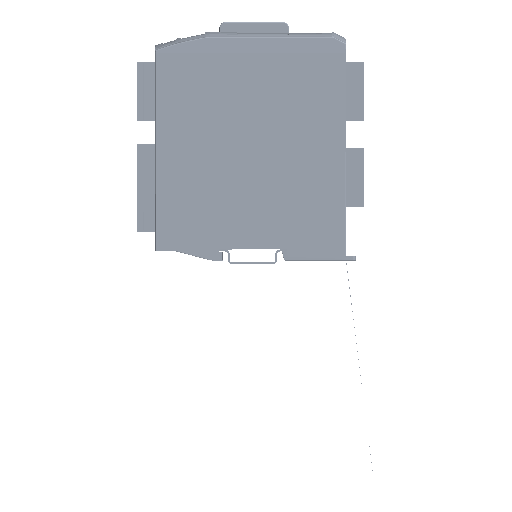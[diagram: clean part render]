
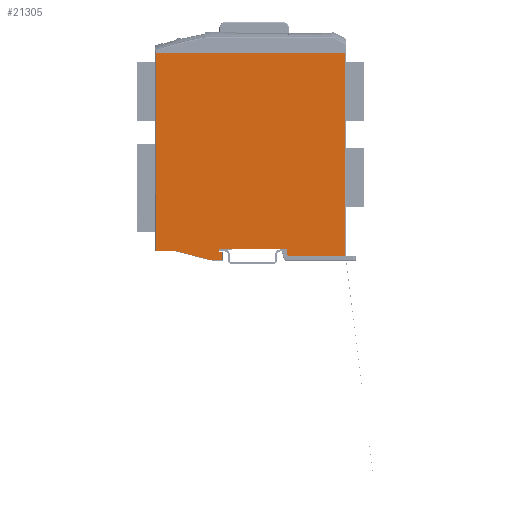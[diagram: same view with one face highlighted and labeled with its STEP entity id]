
A CAD part, left-side view. The second image highlights one B-rep face of the part: STEP entity #21305.
In plain terms, the highlighted planar face has unit normal (-1, 0, 0.009) as drawn and (0, 0, -1) by its records, which use the part's own axes.
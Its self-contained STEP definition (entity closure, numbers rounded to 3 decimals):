
#305 = CARTESIAN_POINT ( 'NONE',  ( 122.461, 11.336, 40.684 ) ) ;
#690 = LINE ( 'NONE', #6224, #77109 ) ;
#920 = CARTESIAN_POINT ( 'NONE',  ( 123.412, 41.318, 40.684 ) ) ;
#978 = CARTESIAN_POINT ( 'NONE',  ( 127.014, 81.576, 40.684 ) ) ;
#1815 = VERTEX_POINT ( 'NONE', #94981 ) ;
#2311 = ORIENTED_EDGE ( 'NONE', *, *, #46388, .T. ) ;
#3000 = EDGE_CURVE ( 'NONE', #48896, #41365, #67521, .T. ) ;
#3489 = EDGE_CURVE ( 'NONE', #1815, #60812, #81280, .T. ) ;
#3964 = CARTESIAN_POINT ( 'NONE',  ( 122.461, 98.859, 40.684 ) ) ;
#5640 = CARTESIAN_POINT ( 'NONE',  ( 122.461, 109.056, 40.684 ) ) ;
#6224 = CARTESIAN_POINT ( 'NONE',  ( 122.461, 98.859, 40.684 ) ) ;
#6597 = VECTOR ( 'NONE', #32495, 1000. ) ;
#7000 = CARTESIAN_POINT ( 'NONE',  ( 125.3, 40.812, 40.684 ) ) ;
#7757 = DIRECTION ( 'NONE',  ( 0., -1., 0. ) ) ;
#8022 = ORIENTED_EDGE ( 'NONE', *, *, #57854, .T. ) ;
#8477 = VECTOR ( 'NONE', #65117, 1000. ) ;
#8576 = DIRECTION ( 'NONE',  ( 0., 1., 0. ) ) ;
#9017 = EDGE_CURVE ( 'NONE', #91561, #48896, #690, .T. ) ;
#9718 = CARTESIAN_POINT ( 'NONE',  ( 125.177, 11.335, 40.684 ) ) ;
#10532 = ORIENTED_EDGE ( 'NONE', *, *, #34546, .T. ) ;
#10749 = CARTESIAN_POINT ( 'NONE',  ( 123.21, 74.697, 40.684 ) ) ;
#11099 = AXIS2_PLACEMENT_3D ( 'NONE', #53563, #53886, #8576 ) ;
#12582 = VECTOR ( 'NONE', #20030, 1000. ) ;
#12611 = ORIENTED_EDGE ( 'NONE', *, *, #3489, .F. ) ;
#13293 = DIRECTION ( 'NONE',  ( -1., 0.012, 0. ) ) ;
#13371 = CARTESIAN_POINT ( 'NONE',  ( 20.067, 109.056, 40.684 ) ) ;
#13641 = CARTESIAN_POINT ( 'NONE',  ( 125.177, 11.335, 40.684 ) ) ;
#14225 = VECTOR ( 'NONE', #57100, 1000. ) ;
#14480 = EDGE_CURVE ( 'NONE', #46622, #44065, #50816, .T. ) ;
#16236 = CARTESIAN_POINT ( 'NONE',  ( 122.461, 109.056, 40.684 ) ) ;
#17138 = DIRECTION ( 'NONE',  ( 0., 1., 0. ) ) ;
#20030 = DIRECTION ( 'NONE',  ( 0.966, -0.259, 0. ) ) ;
#21058 = CARTESIAN_POINT ( 'NONE',  ( 127.014, 74.697, 40.684 ) ) ;
#21305 = ADVANCED_FACE ( 'NONE', ( #31200 ), #30576, .T. ) ;
#22056 = LINE ( 'NONE', #42081, #85702 ) ;
#25032 = CARTESIAN_POINT ( 'NONE',  ( 123.21, 74.697, 40.684 ) ) ;
#26315 = LINE ( 'NONE', #55167, #6597 ) ;
#26900 = EDGE_CURVE ( 'NONE', #41365, #46049, #26315, .T. ) ;
#27137 = ORIENTED_EDGE ( 'NONE', *, *, #66870, .T. ) ;
#27589 = VERTEX_POINT ( 'NONE', #9718 ) ;
#30576 = PLANE ( 'NONE',  #11099 ) ;
#31200 = FACE_OUTER_BOUND ( 'NONE', #67892, .T. ) ;
#32495 = DIRECTION ( 'NONE',  ( -1., 0., 0. ) ) ;
#33671 = ORIENTED_EDGE ( 'NONE', *, *, #14480, .T. ) ;
#33966 = VECTOR ( 'NONE', #95722, 1000. ) ;
#34546 = EDGE_CURVE ( 'NONE', #1815, #46622, #41409, .T. ) ;
#34750 = VERTEX_POINT ( 'NONE', #59453 ) ;
#35093 = CARTESIAN_POINT ( 'NONE',  ( 121.563, 79.97, 40.684 ) ) ;
#35899 = ORIENTED_EDGE ( 'NONE', *, *, #3000, .T. ) ;
#38021 = ORIENTED_EDGE ( 'NONE', *, *, #59326, .T. ) ;
#39007 = VECTOR ( 'NONE', #17138, 1000. ) ;
#39148 = CARTESIAN_POINT ( 'NONE',  ( 20.067, 11.336, 40.684 ) ) ;
#40719 = CARTESIAN_POINT ( 'NONE',  ( 20.067, 109.056, 40.684 ) ) ;
#41293 = EDGE_CURVE ( 'NONE', #71959, #91561, #65133, .T. ) ;
#41365 = VERTEX_POINT ( 'NONE', #21058 ) ;
#41409 = LINE ( 'NONE', #86901, #57689 ) ;
#42081 = CARTESIAN_POINT ( 'NONE',  ( 125.3, 11.333, 40.684 ) ) ;
#42199 = VERTEX_POINT ( 'NONE', #82287 ) ;
#43067 = DIRECTION ( 'NONE',  ( 0.255, -0.967, 0. ) ) ;
#43876 = CARTESIAN_POINT ( 'NONE',  ( 127.014, 11.336, 40.684 ) ) ;
#44065 = VERTEX_POINT ( 'NONE', #7000 ) ;
#44344 = CARTESIAN_POINT ( 'NONE',  ( 122.209, 76.722, 40.684 ) ) ;
#45514 = ORIENTED_EDGE ( 'NONE', *, *, #9017, .T. ) ;
#46049 = VERTEX_POINT ( 'NONE', #25032 ) ;
#46388 = EDGE_CURVE ( 'NONE', #34750, #27589, #22056, .T. ) ;
#46622 = VERTEX_POINT ( 'NONE', #920 ) ;
#47090 = LINE ( 'NONE', #39148, #39007 ) ;
#47945 = DIRECTION ( 'NONE',  ( -0.174, 0.985, 0. ) ) ;
#48896 = VERTEX_POINT ( 'NONE', #978 ) ;
#50031 = CARTESIAN_POINT ( 'NONE',  ( 125.3, 11.336, 40.684 ) ) ;
#50816 = LINE ( 'NONE', #55346, #12582 ) ;
#53563 = CARTESIAN_POINT ( 'NONE',  ( -0.544, 11.336, 40.684 ) ) ;
#53886 = DIRECTION ( 'NONE',  ( 0., 0., -1. ) ) ;
#53980 = ORIENTED_EDGE ( 'NONE', *, *, #81890, .F. ) ;
#55167 = CARTESIAN_POINT ( 'NONE',  ( -0.544, 74.697, 40.684 ) ) ;
#55201 = ORIENTED_EDGE ( 'NONE', *, *, #88005, .T. ) ;
#55346 = CARTESIAN_POINT ( 'NONE',  ( 123.412, 41.318, 40.684 ) ) ;
#55817 = LINE ( 'NONE', #50031, #76521 ) ;
#55976 = LINE ( 'NONE', #44344, #33966 ) ;
#57100 = DIRECTION ( 'NONE',  ( 0., 1., 0. ) ) ;
#57450 = CARTESIAN_POINT ( 'NONE',  ( 20.067, 11.336, 40.684 ) ) ;
#57689 = VECTOR ( 'NONE', #79184, 1000. ) ;
#57854 = EDGE_CURVE ( 'NONE', #77642, #71959, #62293, .T. ) ;
#58404 = ORIENTED_EDGE ( 'NONE', *, *, #81783, .T. ) ;
#59326 = EDGE_CURVE ( 'NONE', #70265, #77642, #47090, .T. ) ;
#59453 = CARTESIAN_POINT ( 'NONE',  ( 125.3, 11.333, 40.684 ) ) ;
#60812 = VERTEX_POINT ( 'NONE', #81481 ) ;
#62293 = B_SPLINE_CURVE_WITH_KNOTS ( 'NONE', 3,
 ( #13371, #94195, #87067, #5640 ),
 .UNSPECIFIED., .F., .F.,
 ( 4, 4 ),
 ( 0., 1. ),
 .UNSPECIFIED. ) ;
#63742 = ORIENTED_EDGE ( 'NONE', *, *, #41293, .T. ) ;
#64037 = VECTOR ( 'NONE', #7757, 1000. ) ;
#65117 = DIRECTION ( 'NONE',  ( -1., 0., 0. ) ) ;
#65133 = LINE ( 'NONE', #305, #64037 ) ;
#66870 = EDGE_CURVE ( 'NONE', #46049, #42199, #76167, .T. ) ;
#67521 = LINE ( 'NONE', #43876, #74434 ) ;
#67892 = EDGE_LOOP ( 'NONE', ( #10532, #33671, #55201, #2311, #58404, #38021, #8022, #63742, #45514, #35899, #69767, #27137, #53980, #12611 ) ) ;
#69767 = ORIENTED_EDGE ( 'NONE', *, *, #26900, .T. ) ;
#70265 = VERTEX_POINT ( 'NONE', #57450 ) ;
#71959 = VERTEX_POINT ( 'NONE', #16236 ) ;
#74434 = VECTOR ( 'NONE', #87501, 1000. ) ;
#76167 = LINE ( 'NONE', #10749, #87642 ) ;
#76521 = VECTOR ( 'NONE', #87440, 1000. ) ;
#76781 = LINE ( 'NONE', #13641, #8477 ) ;
#77109 = VECTOR ( 'NONE', #43067, 1000. ) ;
#77642 = VERTEX_POINT ( 'NONE', #40719 ) ;
#79184 = DIRECTION ( 'NONE',  ( 1., 0., 0. ) ) ;
#81280 = LINE ( 'NONE', #35093, #14225 ) ;
#81481 = CARTESIAN_POINT ( 'NONE',  ( 121.563, 76.722, 40.684 ) ) ;
#81783 = EDGE_CURVE ( 'NONE', #27589, #70265, #76781, .T. ) ;
#81890 = EDGE_CURVE ( 'NONE', #60812, #42199, #55976, .T. ) ;
#82287 = CARTESIAN_POINT ( 'NONE',  ( 122.853, 76.722, 40.684 ) ) ;
#85702 = VECTOR ( 'NONE', #13293, 1000. ) ;
#86901 = CARTESIAN_POINT ( 'NONE',  ( -0.544, 41.318, 40.684 ) ) ;
#87067 = CARTESIAN_POINT ( 'NONE',  ( 88.33, 109.056, 40.684 ) ) ;
#87440 = DIRECTION ( 'NONE',  ( 0., -1., 0. ) ) ;
#87501 = DIRECTION ( 'NONE',  ( 0., -1., 0. ) ) ;
#87642 = VECTOR ( 'NONE', #47945, 1000. ) ;
#88005 = EDGE_CURVE ( 'NONE', #44065, #34750, #55817, .T. ) ;
#91561 = VERTEX_POINT ( 'NONE', #3964 ) ;
#94195 = CARTESIAN_POINT ( 'NONE',  ( 54.198, 109.056, 40.684 ) ) ;
#94981 = CARTESIAN_POINT ( 'NONE',  ( 121.563, 41.318, 40.684 ) ) ;
#95722 = DIRECTION ( 'NONE',  ( 1., 0., 0. ) ) ;
